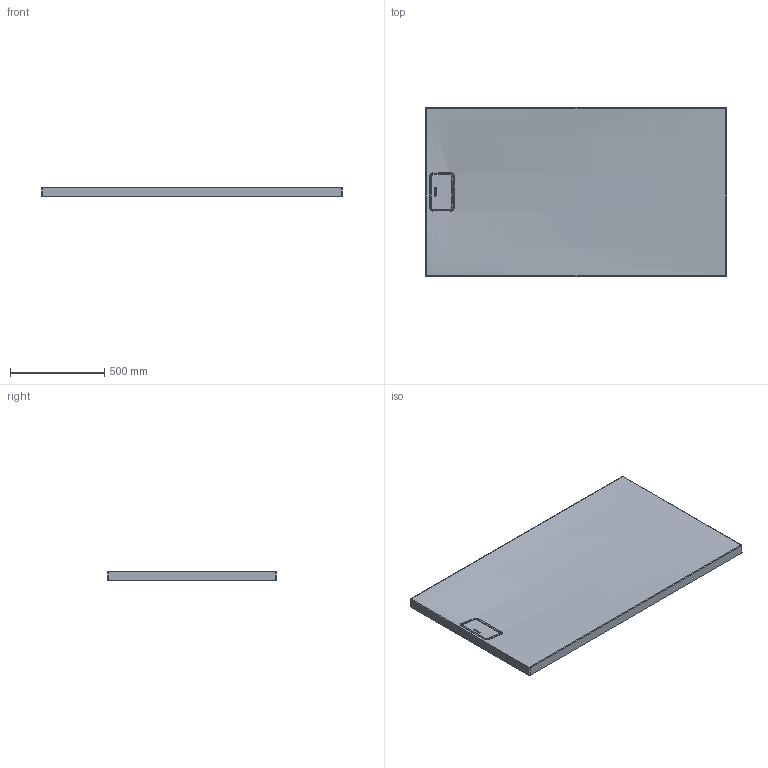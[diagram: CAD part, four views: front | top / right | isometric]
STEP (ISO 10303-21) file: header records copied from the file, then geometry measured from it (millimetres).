
FILE_DESCRIPTION(/* description */ (''),/* implementation_level */ '2;1');
FILE_NAME(/* name */ '720218',/* time_stamp */ '2018-11-13T09:26:08+01:00',/* author */ (''),/* organization */ (''),/* preprocessor_version */ 'ST-DEVELOPER v15',/* originating_system */ '',/* authorisation */ '');
FILE_SCHEMA (('AUTOMOTIVE_DESIGN'));
Products named in the file (4): Block 02; DUSCHW-1600-900; ABLAUFABDECKUNG-24-06-13-N-R; Block 01
Assembly tree (3 placements, depth 3):
  Block 02
    DUSCHW-1600-900
    ABLAUFABDECKUNG-24-06-13-N-R
      Block 01
Bounding box: 1598 x 898 x 50.02 mm (x, y, z)
Volume: 18532942.6 mm3; surface area: 3507750.1 mm2
Topology: 2 solids, 8 shells, 1045 faces, 2609 edges, 1562 vertices
Faces by surface type: bspline 1045
Entity records: 194281 total; most frequent: CARTESIAN_POINT 161593, B_SPLINE_CURVE_WITH_KNOTS 6881, ORIENTED_EDGE 5132, PCURVE 5132, DEFINITIONAL_REPRESENTATION 5132, SURFACE_CURVE 2573, EDGE_CURVE 2573, VERTEX_POINT 1560
